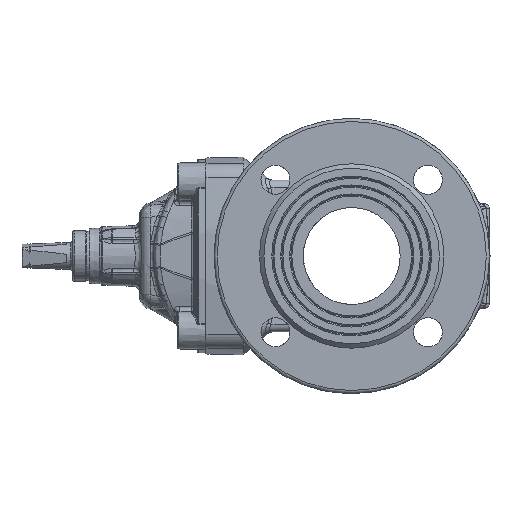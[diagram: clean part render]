
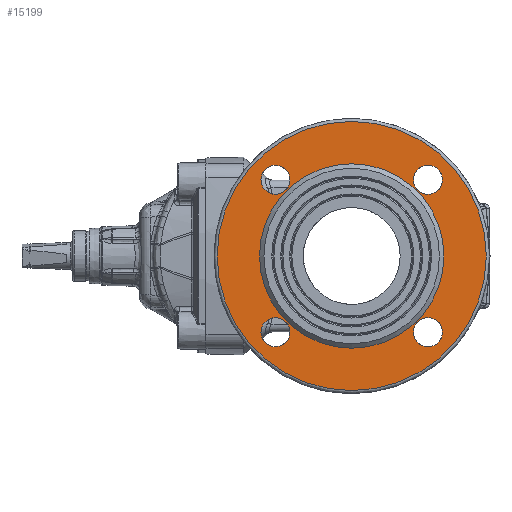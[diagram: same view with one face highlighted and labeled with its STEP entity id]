
A CAD part, left-side view. The second image highlights one B-rep face of the part: STEP entity #15199.
In plain terms, the highlighted planar face has unit normal (-1, 0, 0).
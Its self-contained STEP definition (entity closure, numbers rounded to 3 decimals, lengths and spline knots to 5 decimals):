
#2098=FACE_BOUND('',#4547,.T.);
#2099=FACE_BOUND('',#4548,.T.);
#2100=FACE_BOUND('',#4549,.T.);
#2101=FACE_BOUND('',#4550,.T.);
#2102=FACE_BOUND('',#4551,.T.);
#2846=PLANE('',#16789);
#3538=FACE_OUTER_BOUND('',#4546,.T.);
#4546=EDGE_LOOP('',(#12861));
#4547=EDGE_LOOP('',(#12862));
#4548=EDGE_LOOP('',(#12863));
#4549=EDGE_LOOP('',(#12864));
#4550=EDGE_LOOP('',(#12865));
#4551=EDGE_LOOP('',(#12866));
#5622=CIRCLE('',#16788,0.062);
#5623=CIRCLE('',#16790,0.0905);
#5624=CIRCLE('',#16791,0.00975);
#5625=CIRCLE('',#16792,0.00975);
#5626=CIRCLE('',#16793,0.00975);
#5627=CIRCLE('',#16794,0.00975);
#7013=VERTEX_POINT('',#47167);
#7014=VERTEX_POINT('',#47171);
#7015=VERTEX_POINT('',#47173);
#7016=VERTEX_POINT('',#47175);
#7017=VERTEX_POINT('',#47177);
#7018=VERTEX_POINT('',#47179);
#9022=EDGE_CURVE('',#7013,#7013,#5622,.T.);
#9024=EDGE_CURVE('',#7014,#7014,#5623,.T.);
#9025=EDGE_CURVE('',#7015,#7015,#5624,.T.);
#9026=EDGE_CURVE('',#7016,#7016,#5625,.T.);
#9027=EDGE_CURVE('',#7017,#7017,#5626,.T.);
#9028=EDGE_CURVE('',#7018,#7018,#5627,.T.);
#12861=ORIENTED_EDGE('',*,*,#9024,.T.);
#12862=ORIENTED_EDGE('',*,*,#9025,.T.);
#12863=ORIENTED_EDGE('',*,*,#9026,.T.);
#12864=ORIENTED_EDGE('',*,*,#9022,.T.);
#12865=ORIENTED_EDGE('',*,*,#9027,.F.);
#12866=ORIENTED_EDGE('',*,*,#9028,.F.);
#15199=ADVANCED_FACE('',(#3538,#2098,#2099,#2100,#2101,#2102),#2846,.T.);
#16788=AXIS2_PLACEMENT_3D('',#47168,#19586,#19587);
#16789=AXIS2_PLACEMENT_3D('',#47170,#19589,#19590);
#16790=AXIS2_PLACEMENT_3D('',#47172,#19591,#19592);
#16791=AXIS2_PLACEMENT_3D('',#47174,#19593,#19594);
#16792=AXIS2_PLACEMENT_3D('',#47176,#19595,#19596);
#16793=AXIS2_PLACEMENT_3D('',#47178,#19597,#19598);
#16794=AXIS2_PLACEMENT_3D('',#47180,#19599,#19600);
#19586=DIRECTION('center_axis',(1.,0.,0.));
#19587=DIRECTION('ref_axis',(0.,0.,-1.));
#19589=DIRECTION('center_axis',(-1.,0.,0.));
#19590=DIRECTION('ref_axis',(0.,0.,1.));
#19591=DIRECTION('center_axis',(-1.,0.,0.));
#19592=DIRECTION('ref_axis',(0.,0.,1.));
#19593=DIRECTION('center_axis',(1.,0.,0.));
#19594=DIRECTION('ref_axis',(0.,0.,-1.));
#19595=DIRECTION('center_axis',(1.,0.,0.));
#19596=DIRECTION('ref_axis',(0.,0.,-1.));
#19597=DIRECTION('center_axis',(-1.,0.,0.));
#19598=DIRECTION('ref_axis',(0.,0.,1.));
#19599=DIRECTION('center_axis',(-1.,0.,0.));
#19600=DIRECTION('ref_axis',(0.,0.,1.));
#47167=CARTESIAN_POINT('',(-0.082,0.,0.062));
#47168=CARTESIAN_POINT('Origin',(-0.082,0.,0.));
#47170=CARTESIAN_POINT('Origin',(-0.082,-0.062,0.));
#47171=CARTESIAN_POINT('',(-0.082,0.,-0.0905));
#47172=CARTESIAN_POINT('Origin',(-0.082,0.,0.));
#47173=CARTESIAN_POINT('',(-0.082,-0.04152,0.05127));
#47174=CARTESIAN_POINT('Origin',(-0.082,-0.05127,0.05127));
#47175=CARTESIAN_POINT('',(-0.082,0.06102,0.05127));
#47176=CARTESIAN_POINT('Origin',(-0.082,0.05127,0.05127));
#47177=CARTESIAN_POINT('',(-0.082,-0.04152,-0.05127));
#47178=CARTESIAN_POINT('Origin',(-0.082,-0.05127,-0.05127));
#47179=CARTESIAN_POINT('',(-0.082,0.06102,-0.05127));
#47180=CARTESIAN_POINT('Origin',(-0.082,0.05127,-0.05127));
